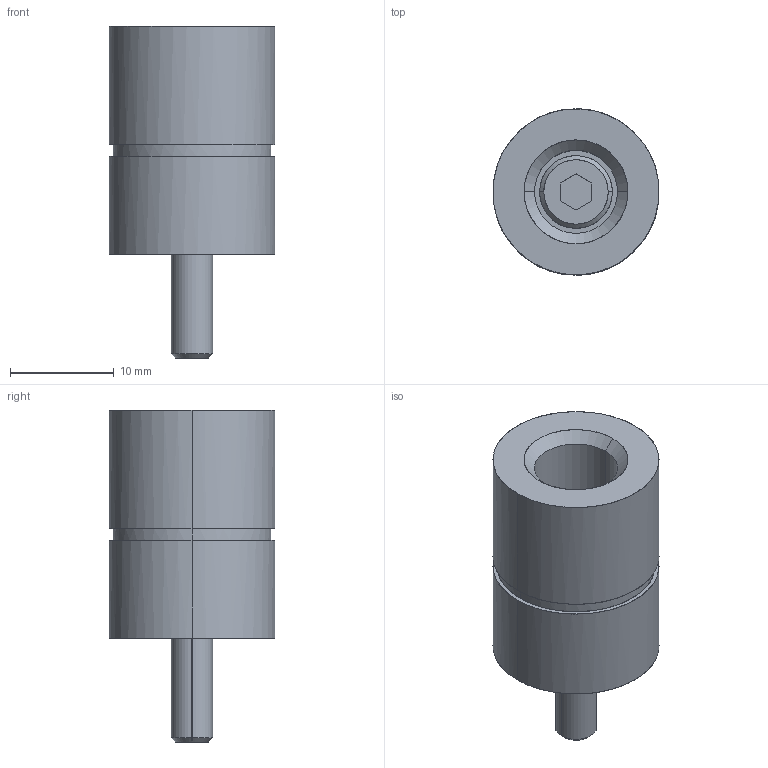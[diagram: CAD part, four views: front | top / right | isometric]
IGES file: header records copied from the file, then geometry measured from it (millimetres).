
Global section: file name: E:\UnigraphicsGraphicData\MISUMI_PRESS-PARTS\IGES\3d_sbn16-22-y_00577_r00.igs; native system: NX V5.0; preprocessor: UGS NX IGES V5.0; author: MISUMI; date: 20110105.162426; units: millimetre
Bounding box: 16 x 16 x 32 mm (x, y, z)
Surface area: 2372 mm2 (no closed solid volume)
Topology: 0 solids, 0 shells, 35 faces, 228 edges, 228 vertices
Faces by surface type: bspline 35
